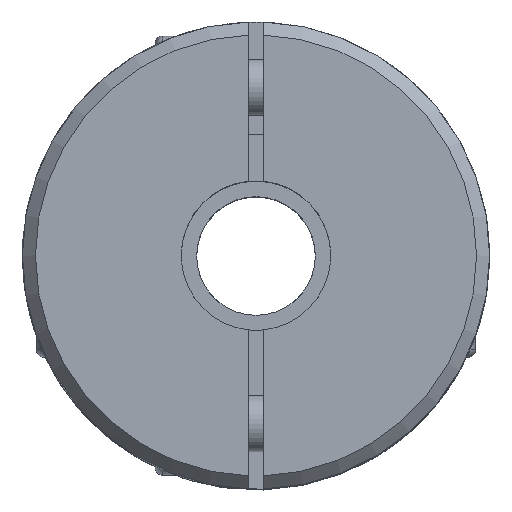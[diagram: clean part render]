
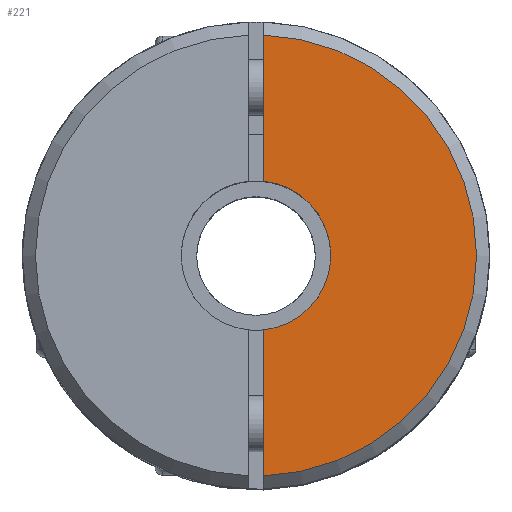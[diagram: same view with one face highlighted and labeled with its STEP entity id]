
A CAD part, top view. The second image highlights one B-rep face of the part: STEP entity #221.
In plain terms, the highlighted planar face has unit normal (0, 0, 1).
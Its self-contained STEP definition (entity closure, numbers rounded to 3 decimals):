
#119 = CARTESIAN_POINT ( 'NONE',  ( 0.4, -3.98, 15.5 ) ) ;
#177 = CIRCLE ( 'NONE', #3376, 4. ) ;
#197 = DIRECTION ( 'NONE',  ( 1., 0., 0. ) ) ;
#221 = ADVANCED_FACE ( 'NONE', ( #2466 ), #3492, .F. ) ;
#274 = EDGE_CURVE ( 'NONE', #1767, #3184, #2823, .T. ) ;
#297 = ORIENTED_EDGE ( 'NONE', *, *, #274, .T. ) ;
#852 = DIRECTION ( 'NONE',  ( 0., 0., 1. ) ) ;
#1213 = VECTOR ( 'NONE', #1534, 1000. ) ;
#1534 = DIRECTION ( 'NONE',  ( 0., -1., 0. ) ) ;
#1612 = ORIENTED_EDGE ( 'NONE', *, *, #3968, .T. ) ;
#1767 = VERTEX_POINT ( 'NONE', #4237 ) ;
#1819 = LINE ( 'NONE', #3857, #4485 ) ;
#1823 = DIRECTION ( 'NONE',  ( 0., 1., 0. ) ) ;
#1846 = CARTESIAN_POINT ( 'NONE',  ( 0., 0., 15.5 ) ) ;
#1992 = VERTEX_POINT ( 'NONE', #119 ) ;
#2389 = AXIS2_PLACEMENT_3D ( 'NONE', #1846, #2511, #3218 ) ;
#2458 = EDGE_LOOP ( 'NONE', ( #2492, #2524, #1612, #297 ) ) ;
#2466 = FACE_OUTER_BOUND ( 'NONE', #2458, .T. ) ;
#2492 = ORIENTED_EDGE ( 'NONE', *, *, #4412, .T. ) ;
#2500 = VERTEX_POINT ( 'NONE', #2990 ) ;
#2511 = DIRECTION ( 'NONE',  ( 0., 0., 1. ) ) ;
#2524 = ORIENTED_EDGE ( 'NONE', *, *, #3776, .F. ) ;
#2823 = CIRCLE ( 'NONE', #2389, 11.8 ) ;
#2990 = CARTESIAN_POINT ( 'NONE',  ( 0.4, 3.98, 15.5 ) ) ;
#3034 = CARTESIAN_POINT ( 'NONE',  ( 0.4, 11.793, 15.5 ) ) ;
#3184 = VERTEX_POINT ( 'NONE', #3034 ) ;
#3218 = DIRECTION ( 'NONE',  ( 0., 1., 0. ) ) ;
#3376 = AXIS2_PLACEMENT_3D ( 'NONE', #3949, #852, #197 ) ;
#3492 = PLANE ( 'NONE',  #4352 ) ;
#3590 = CARTESIAN_POINT ( 'NONE',  ( 0.4, 15., 15.5 ) ) ;
#3776 = EDGE_CURVE ( 'NONE', #1992, #2500, #177, .T. ) ;
#3857 = CARTESIAN_POINT ( 'NONE',  ( 0.4, 15., 15.5 ) ) ;
#3859 = CARTESIAN_POINT ( 'NONE',  ( 0., 1.5, 15.5 ) ) ;
#3949 = CARTESIAN_POINT ( 'NONE',  ( 0., 0., 15.5 ) ) ;
#3968 = EDGE_CURVE ( 'NONE', #1992, #1767, #1819, .T. ) ;
#4203 = DIRECTION ( 'NONE',  ( 0., -1., 0. ) ) ;
#4229 = DIRECTION ( 'NONE',  ( 0., 0., -1. ) ) ;
#4237 = CARTESIAN_POINT ( 'NONE',  ( 0.4, -11.793, 15.5 ) ) ;
#4268 = LINE ( 'NONE', #3590, #1213 ) ;
#4352 = AXIS2_PLACEMENT_3D ( 'NONE', #3859, #4229, #1823 ) ;
#4412 = EDGE_CURVE ( 'NONE', #3184, #2500, #4268, .T. ) ;
#4485 = VECTOR ( 'NONE', #4203, 1000. ) ;
